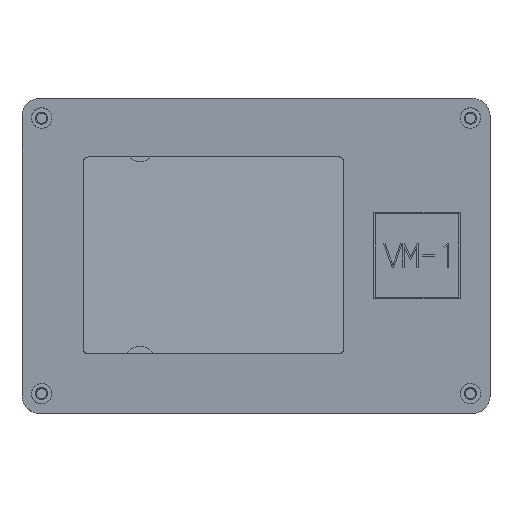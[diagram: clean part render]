
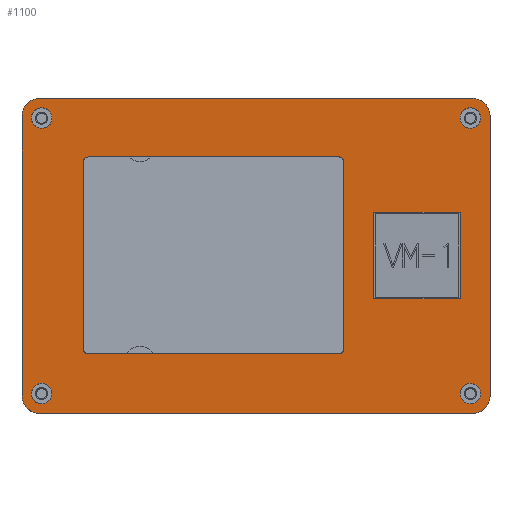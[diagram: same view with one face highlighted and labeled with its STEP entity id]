
A CAD part, top view. The second image highlights one B-rep face of the part: STEP entity #1100.
In plain terms, the highlighted planar face has unit normal (0, -0.087, 0.996).
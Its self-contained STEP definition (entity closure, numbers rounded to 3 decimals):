
#481=CARTESIAN_POINT('',(-49.,36.,42.102));
#482=VERTEX_POINT('',#481);
#489=CARTESIAN_POINT('',(50.,36.,42.102));
#490=VERTEX_POINT('',#489);
#491=CARTESIAN_POINT('',(50.,36.,42.102));
#492=DIRECTION('',(-1.,0.,0.));
#493=VECTOR('',#492,99.);
#494=LINE('',#491,#493);
#495=EDGE_CURVE('',#490,#482,#494,.T.);
#850=CARTESIAN_POINT('',(27.25,-17.932,37.384));
#851=DIRECTION('',(0.,-0.087,0.996));
#852=DIRECTION('',(1.,0.,0.));
#853=AXIS2_PLACEMENT_3D('',#850,#851,#852);
#854=PLANE('',#853);
#855=CARTESIAN_POINT('',(-37.9,-22.423,36.991));
#856=VERTEX_POINT('',#855);
#857=CARTESIAN_POINT('',(19.5,-22.423,36.991));
#858=VERTEX_POINT('',#857);
#859=CARTESIAN_POINT('',(-37.9,-22.423,36.991));
#860=DIRECTION('',(1.,0.,0.));
#861=VECTOR('',#860,57.4);
#862=LINE('',#859,#861);
#863=EDGE_CURVE('',#856,#858,#862,.T.);
#864=ORIENTED_EDGE('',*,*,#863,.F.);
#865=CARTESIAN_POINT('',(-38.9,-21.427,37.078));
#866=VERTEX_POINT('',#865);
#867=CARTESIAN_POINT('',(-37.9,-21.427,37.078));
#868=DIRECTION('',(-0.,0.087,-0.996));
#869=DIRECTION('',(0.,-0.996,-0.087));
#870=AXIS2_PLACEMENT_3D('',#867,#868,#869);
#871=CIRCLE('',#870,1.);
#872=EDGE_CURVE('',#856,#866,#871,.T.);
#873=ORIENTED_EDGE('',*,*,#872,.T.);
#874=CARTESIAN_POINT('',(-38.9,21.609,40.843));
#875=VERTEX_POINT('',#874);
#876=CARTESIAN_POINT('',(-38.9,-21.427,37.078));
#877=DIRECTION('',(0.,0.996,0.087));
#878=VECTOR('',#877,43.2);
#879=LINE('',#876,#878);
#880=EDGE_CURVE('',#866,#875,#879,.T.);
#881=ORIENTED_EDGE('',*,*,#880,.T.);
#882=CARTESIAN_POINT('',(-37.9,22.605,40.93));
#883=VERTEX_POINT('',#882);
#884=CARTESIAN_POINT('',(-37.9,21.609,40.843));
#885=DIRECTION('',(-0.,0.087,-0.996));
#886=DIRECTION('',(0.,-0.996,-0.087));
#887=AXIS2_PLACEMENT_3D('',#884,#885,#886);
#888=CIRCLE('',#887,1.);
#889=EDGE_CURVE('',#875,#883,#888,.T.);
#890=ORIENTED_EDGE('',*,*,#889,.T.);
#891=CARTESIAN_POINT('',(19.5,22.605,40.93));
#892=VERTEX_POINT('',#891);
#893=CARTESIAN_POINT('',(-37.9,22.605,40.93));
#894=DIRECTION('',(1.,0.,0.));
#895=VECTOR('',#894,57.4);
#896=LINE('',#893,#895);
#897=EDGE_CURVE('',#883,#892,#896,.T.);
#898=ORIENTED_EDGE('',*,*,#897,.T.);
#899=CARTESIAN_POINT('',(20.5,21.609,40.843));
#900=VERTEX_POINT('',#899);
#901=CARTESIAN_POINT('',(19.5,21.609,40.843));
#902=DIRECTION('',(-0.,0.087,-0.996));
#903=DIRECTION('',(0.,-0.996,-0.087));
#904=AXIS2_PLACEMENT_3D('',#901,#902,#903);
#905=CIRCLE('',#904,1.);
#906=EDGE_CURVE('',#892,#900,#905,.T.);
#907=ORIENTED_EDGE('',*,*,#906,.T.);
#908=CARTESIAN_POINT('',(20.5,-21.427,37.078));
#909=VERTEX_POINT('',#908);
#910=CARTESIAN_POINT('',(20.5,-21.427,37.078));
#911=DIRECTION('',(-0.,0.996,0.087));
#912=VECTOR('',#911,43.2);
#913=LINE('',#910,#912);
#914=EDGE_CURVE('',#909,#900,#913,.T.);
#915=ORIENTED_EDGE('',*,*,#914,.F.);
#916=CARTESIAN_POINT('',(19.5,-21.427,37.078));
#917=DIRECTION('',(-0.,0.087,-0.996));
#918=DIRECTION('',(0.,-0.996,-0.087));
#919=AXIS2_PLACEMENT_3D('',#916,#917,#918);
#920=CIRCLE('',#919,1.);
#921=EDGE_CURVE('',#909,#858,#920,.T.);
#922=ORIENTED_EDGE('',*,*,#921,.T.);
#923=EDGE_LOOP('',(#864,#873,#881,#890,#898,#907,#915,#922));
#924=FACE_BOUND('',#923,.T.);
#925=CARTESIAN_POINT('',(49.5,29.15,41.503));
#926=VERTEX_POINT('',#925);
#927=CARTESIAN_POINT('',(49.5,33.85,41.914));
#928=VERTEX_POINT('',#927);
#929=CARTESIAN_POINT('',(49.5,31.5,41.709));
#930=DIRECTION('',(0.,-0.087,0.996));
#931=DIRECTION('',(0.,0.996,0.087));
#932=AXIS2_PLACEMENT_3D('',#929,#930,#931);
#933=ELLIPSE('',#932,2.359,2.35);
#934=EDGE_CURVE('',#926,#928,#933,.T.);
#935=ORIENTED_EDGE('',*,*,#934,.F.);
#936=CARTESIAN_POINT('',(49.5,31.5,41.709));
#937=DIRECTION('',(0.,-0.087,0.996));
#938=DIRECTION('',(0.,0.996,0.087));
#939=AXIS2_PLACEMENT_3D('',#936,#937,#938);
#940=ELLIPSE('',#939,2.359,2.35);
#941=EDGE_CURVE('',#928,#926,#940,.T.);
#942=ORIENTED_EDGE('',*,*,#941,.F.);
#943=EDGE_LOOP('',(#935,#942));
#944=FACE_BOUND('',#943,.T.);
#945=CARTESIAN_POINT('',(49.506,-33.85,35.991));
#946=VERTEX_POINT('',#945);
#947=CARTESIAN_POINT('',(49.506,-29.15,36.402));
#948=VERTEX_POINT('',#947);
#949=CARTESIAN_POINT('',(49.506,-31.5,36.197));
#950=DIRECTION('',(0.,-0.087,0.996));
#951=DIRECTION('',(0.,0.996,0.087));
#952=AXIS2_PLACEMENT_3D('',#949,#950,#951);
#953=ELLIPSE('',#952,2.359,2.35);
#954=EDGE_CURVE('',#946,#948,#953,.T.);
#955=ORIENTED_EDGE('',*,*,#954,.F.);
#956=CARTESIAN_POINT('',(49.506,-31.5,36.197));
#957=DIRECTION('',(0.,-0.087,0.996));
#958=DIRECTION('',(0.,0.996,0.087));
#959=AXIS2_PLACEMENT_3D('',#956,#957,#958);
#960=ELLIPSE('',#959,2.359,2.35);
#961=EDGE_CURVE('',#948,#946,#960,.T.);
#962=ORIENTED_EDGE('',*,*,#961,.F.);
#963=EDGE_LOOP('',(#955,#962));
#964=FACE_BOUND('',#963,.T.);
#965=CARTESIAN_POINT('',(-48.5,-33.85,35.991));
#966=VERTEX_POINT('',#965);
#967=CARTESIAN_POINT('',(-48.5,-29.15,36.402));
#968=VERTEX_POINT('',#967);
#969=CARTESIAN_POINT('',(-48.5,-31.5,36.197));
#970=DIRECTION('',(0.,-0.087,0.996));
#971=DIRECTION('',(0.,0.996,0.087));
#972=AXIS2_PLACEMENT_3D('',#969,#970,#971);
#973=ELLIPSE('',#972,2.359,2.35);
#974=EDGE_CURVE('',#966,#968,#973,.T.);
#975=ORIENTED_EDGE('',*,*,#974,.F.);
#976=CARTESIAN_POINT('',(-48.5,-31.5,36.197));
#977=DIRECTION('',(0.,-0.087,0.996));
#978=DIRECTION('',(0.,0.996,0.087));
#979=AXIS2_PLACEMENT_3D('',#976,#977,#978);
#980=ELLIPSE('',#979,2.359,2.35);
#981=EDGE_CURVE('',#968,#966,#980,.T.);
#982=ORIENTED_EDGE('',*,*,#981,.F.);
#983=EDGE_LOOP('',(#975,#982));
#984=FACE_BOUND('',#983,.T.);
#985=CARTESIAN_POINT('',(-48.5,29.15,41.503));
#986=VERTEX_POINT('',#985);
#987=CARTESIAN_POINT('',(-48.5,33.85,41.914));
#988=VERTEX_POINT('',#987);
#989=CARTESIAN_POINT('',(-48.5,31.5,41.709));
#990=DIRECTION('',(0.,-0.087,0.996));
#991=DIRECTION('',(0.,0.996,0.087));
#992=AXIS2_PLACEMENT_3D('',#989,#990,#991);
#993=ELLIPSE('',#992,2.359,2.35);
#994=EDGE_CURVE('',#986,#988,#993,.T.);
#995=ORIENTED_EDGE('',*,*,#994,.F.);
#996=CARTESIAN_POINT('',(-48.5,31.5,41.709));
#997=DIRECTION('',(0.,-0.087,0.996));
#998=DIRECTION('',(0.,0.996,0.087));
#999=AXIS2_PLACEMENT_3D('',#996,#997,#998);
#1000=ELLIPSE('',#999,2.359,2.35);
#1001=EDGE_CURVE('',#988,#986,#1000,.T.);
#1002=ORIENTED_EDGE('',*,*,#1001,.F.);
#1003=EDGE_LOOP('',(#995,#1002));
#1004=FACE_BOUND('',#1003,.T.);
#1005=ORIENTED_EDGE('',*,*,#495,.T.);
#1006=CARTESIAN_POINT('',(-53.,32.,41.752));
#1007=VERTEX_POINT('',#1006);
#1008=CARTESIAN_POINT('',(-49.,32.,41.752));
#1009=DIRECTION('',(0.,-0.087,0.996));
#1010=DIRECTION('',(0.,0.996,0.087));
#1011=AXIS2_PLACEMENT_3D('',#1008,#1009,#1010);
#1012=ELLIPSE('',#1011,4.015,4.);
#1013=EDGE_CURVE('',#482,#1007,#1012,.T.);
#1014=ORIENTED_EDGE('',*,*,#1013,.T.);
#1015=CARTESIAN_POINT('',(-53.,-32.,36.153));
#1016=VERTEX_POINT('',#1015);
#1017=CARTESIAN_POINT('',(-53.,32.,41.752));
#1018=DIRECTION('',(0.,-0.996,-0.087));
#1019=VECTOR('',#1018,64.244);
#1020=LINE('',#1017,#1019);
#1021=EDGE_CURVE('',#1007,#1016,#1020,.T.);
#1022=ORIENTED_EDGE('',*,*,#1021,.T.);
#1023=CARTESIAN_POINT('',(-49.,-36.,35.803));
#1024=VERTEX_POINT('',#1023);
#1025=CARTESIAN_POINT('',(-49.,-32.,36.153));
#1026=DIRECTION('',(0.,-0.087,0.996));
#1027=DIRECTION('',(0.,0.996,0.087));
#1028=AXIS2_PLACEMENT_3D('',#1025,#1026,#1027);
#1029=ELLIPSE('',#1028,4.015,4.);
#1030=EDGE_CURVE('',#1016,#1024,#1029,.T.);
#1031=ORIENTED_EDGE('',*,*,#1030,.T.);
#1032=CARTESIAN_POINT('',(50.,-36.,35.803));
#1033=VERTEX_POINT('',#1032);
#1034=CARTESIAN_POINT('',(-49.,-36.,35.803));
#1035=DIRECTION('',(1.,-0.,-0.));
#1036=VECTOR('',#1035,99.);
#1037=LINE('',#1034,#1036);
#1038=EDGE_CURVE('',#1024,#1033,#1037,.T.);
#1039=ORIENTED_EDGE('',*,*,#1038,.T.);
#1040=CARTESIAN_POINT('',(54.,-32.,36.153));
#1041=VERTEX_POINT('',#1040);
#1042=CARTESIAN_POINT('',(50.,-32.,36.153));
#1043=DIRECTION('',(0.,-0.087,0.996));
#1044=DIRECTION('',(0.,0.996,0.087));
#1045=AXIS2_PLACEMENT_3D('',#1042,#1043,#1044);
#1046=ELLIPSE('',#1045,4.015,4.);
#1047=EDGE_CURVE('',#1033,#1041,#1046,.T.);
#1048=ORIENTED_EDGE('',*,*,#1047,.T.);
#1049=CARTESIAN_POINT('',(54.,32.,41.752));
#1050=VERTEX_POINT('',#1049);
#1051=CARTESIAN_POINT('',(54.,-32.,36.153));
#1052=DIRECTION('',(0.,0.996,0.087));
#1053=VECTOR('',#1052,64.244);
#1054=LINE('',#1051,#1053);
#1055=EDGE_CURVE('',#1041,#1050,#1054,.T.);
#1056=ORIENTED_EDGE('',*,*,#1055,.T.);
#1057=CARTESIAN_POINT('',(50.,32.,41.752));
#1058=DIRECTION('',(0.,-0.087,0.996));
#1059=DIRECTION('',(0.,0.996,0.087));
#1060=AXIS2_PLACEMENT_3D('',#1057,#1058,#1059);
#1061=ELLIPSE('',#1060,4.015,4.);
#1062=EDGE_CURVE('',#1050,#490,#1061,.T.);
#1063=ORIENTED_EDGE('',*,*,#1062,.T.);
#1064=EDGE_LOOP('',(#1005,#1014,#1022,#1031,#1039,#1048,#1056,#1063));
#1065=FACE_BOUND('',#1064,.T.);
#1066=CARTESIAN_POINT('',(27.391,9.938,39.822));
#1067=VERTEX_POINT('',#1066);
#1068=CARTESIAN_POINT('',(47.207,9.938,39.822));
#1069=VERTEX_POINT('',#1068);
#1070=CARTESIAN_POINT('',(27.391,9.938,39.822));
#1071=DIRECTION('',(1.,0.,-0.));
#1072=VECTOR('',#1071,19.816);
#1073=LINE('',#1070,#1072);
#1074=EDGE_CURVE('',#1067,#1069,#1073,.T.);
#1075=ORIENTED_EDGE('',*,*,#1074,.T.);
#1076=CARTESIAN_POINT('',(47.207,-9.802,38.095));
#1077=VERTEX_POINT('',#1076);
#1078=CARTESIAN_POINT('',(47.207,9.938,39.822));
#1079=DIRECTION('',(0.,-0.996,-0.087));
#1080=VECTOR('',#1079,19.816);
#1081=LINE('',#1078,#1080);
#1082=EDGE_CURVE('',#1069,#1077,#1081,.T.);
#1083=ORIENTED_EDGE('',*,*,#1082,.T.);
#1084=CARTESIAN_POINT('',(27.391,-9.802,38.095));
#1085=VERTEX_POINT('',#1084);
#1086=CARTESIAN_POINT('',(27.391,-9.802,38.095));
#1087=DIRECTION('',(1.,0.,-0.));
#1088=VECTOR('',#1087,19.816);
#1089=LINE('',#1086,#1088);
#1090=EDGE_CURVE('',#1085,#1077,#1089,.T.);
#1091=ORIENTED_EDGE('',*,*,#1090,.F.);
#1092=CARTESIAN_POINT('',(27.391,-9.802,38.095));
#1093=DIRECTION('',(0.,0.996,0.087));
#1094=VECTOR('',#1093,19.816);
#1095=LINE('',#1092,#1094);
#1096=EDGE_CURVE('',#1085,#1067,#1095,.T.);
#1097=ORIENTED_EDGE('',*,*,#1096,.T.);
#1098=EDGE_LOOP('',(#1075,#1083,#1091,#1097));
#1099=FACE_BOUND('',#1098,.T.);
#1100=ADVANCED_FACE('',(#924,#944,#964,#984,#1004,#1065,#1099),#854,.T.);
